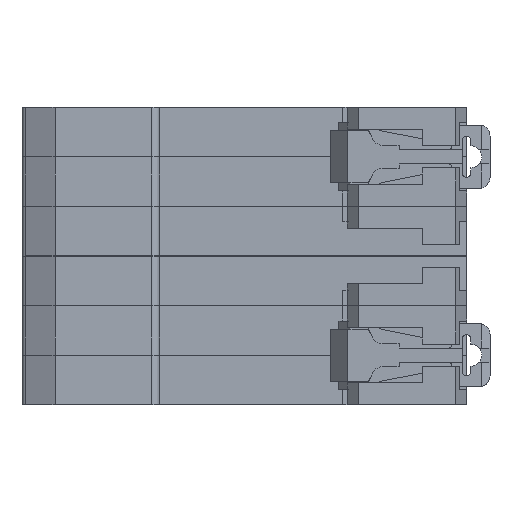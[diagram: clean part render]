
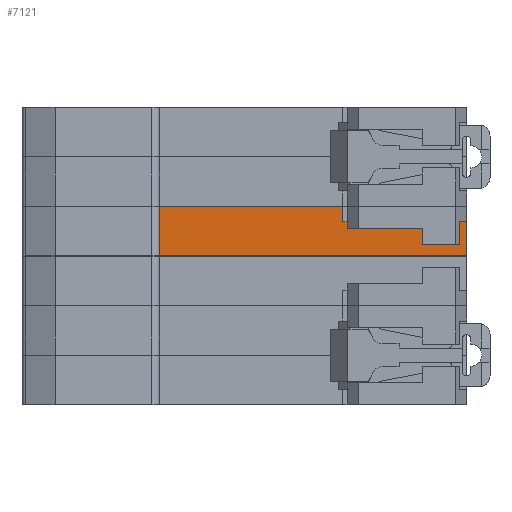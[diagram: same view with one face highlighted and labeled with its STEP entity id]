
A CAD part, front view. The second image highlights one B-rep face of the part: STEP entity #7121.
In plain terms, the highlighted planar face has unit normal (0, -1, 0).
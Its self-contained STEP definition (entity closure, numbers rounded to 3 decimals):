
#1115 = CARTESIAN_POINT ( 'NONE',  ( -22.55, 0., 1.7 ) ) ;
#1925 = LINE ( 'NONE', #25377, #28741 ) ;
#2718 = VERTEX_POINT ( 'NONE', #18014 ) ;
#3204 = ORIENTED_EDGE ( 'NONE', *, *, #23150, .T. ) ;
#3353 = VECTOR ( 'NONE', #11024, 1000. ) ;
#5272 = DIRECTION ( 'NONE',  ( 0., 1., 0. ) ) ;
#5870 = VERTEX_POINT ( 'NONE', #18369 ) ;
#7121 = ADVANCED_FACE ( 'NONE', ( #15797 ), #27165, .F. ) ;
#7214 = LINE ( 'NONE', #18865, #3353 ) ;
#7413 = CARTESIAN_POINT ( 'NONE',  ( 13.15, 0., 0. ) ) ;
#10158 = DIRECTION ( 'NONE',  ( -1., 0., 0. ) ) ;
#10385 = ORIENTED_EDGE ( 'NONE', *, *, #29255, .F. ) ;
#10396 = EDGE_CURVE ( 'NONE', #2718, #5870, #28438, .T. ) ;
#10707 = CARTESIAN_POINT ( 'NONE',  ( -45.05, 0., 9. ) ) ;
#11024 = DIRECTION ( 'NONE',  ( 0., 0., -1. ) ) ;
#11380 = ORIENTED_EDGE ( 'NONE', *, *, #26299, .T. ) ;
#11622 = DIRECTION ( 'NONE',  ( 1., 0., 0. ) ) ;
#12348 = CARTESIAN_POINT ( 'NONE',  ( -22.55, 0., 1.7 ) ) ;
#14048 = VECTOR ( 'NONE', #15594, 1000. ) ;
#14970 = EDGE_LOOP ( 'NONE', ( #18957, #27624, #11380, #28647, #10385, #3204 ) ) ;
#15594 = DIRECTION ( 'NONE',  ( -1., 0., 0. ) ) ;
#15797 = FACE_OUTER_BOUND ( 'NONE', #14970, .T. ) ;
#15861 = VECTOR ( 'NONE', #21684, 1000. ) ;
#16218 = EDGE_CURVE ( 'NONE', #19196, #30609, #7214, .T. ) ;
#16631 = VERTEX_POINT ( 'NONE', #19407 ) ;
#16798 = VECTOR ( 'NONE', #11622, 1000. ) ;
#18014 = CARTESIAN_POINT ( 'NONE',  ( -22.55, 0., 2.8 ) ) ;
#18037 = VERTEX_POINT ( 'NONE', #10707 ) ;
#18369 = CARTESIAN_POINT ( 'NONE',  ( -45.05, 0., 2.8 ) ) ;
#18865 = CARTESIAN_POINT ( 'NONE',  ( 13.15, 0., 1.7 ) ) ;
#18957 = ORIENTED_EDGE ( 'NONE', *, *, #10396, .F. ) ;
#19196 = VERTEX_POINT ( 'NONE', #24766 ) ;
#19407 = CARTESIAN_POINT ( 'NONE',  ( -22.55, 0., 0. ) ) ;
#21306 = CARTESIAN_POINT ( 'NONE',  ( -22.55, 0., 0. ) ) ;
#21684 = DIRECTION ( 'NONE',  ( 1., 0., 0. ) ) ;
#21870 = EDGE_CURVE ( 'NONE', #2718, #16631, #27272, .T. ) ;
#23150 = EDGE_CURVE ( 'NONE', #18037, #5870, #1925, .T. ) ;
#23795 = DIRECTION ( 'NONE',  ( 0., 0., -1. ) ) ;
#24424 = CARTESIAN_POINT ( 'NONE',  ( -22.55, 0., 9. ) ) ;
#24766 = CARTESIAN_POINT ( 'NONE',  ( 13.15, 0., 9. ) ) ;
#25377 = CARTESIAN_POINT ( 'NONE',  ( -45.05, 0., 1.7 ) ) ;
#26299 = EDGE_CURVE ( 'NONE', #16631, #30609, #31169, .T. ) ;
#27165 = PLANE ( 'NONE',  #30175 ) ;
#27272 = LINE ( 'NONE', #1115, #30349 ) ;
#27624 = ORIENTED_EDGE ( 'NONE', *, *, #21870, .T. ) ;
#27863 = DIRECTION ( 'NONE',  ( 0., 0., -1. ) ) ;
#27995 = CARTESIAN_POINT ( 'NONE',  ( -17.083, 0., 2.8 ) ) ;
#28438 = LINE ( 'NONE', #27995, #14048 ) ;
#28647 = ORIENTED_EDGE ( 'NONE', *, *, #16218, .F. ) ;
#28741 = VECTOR ( 'NONE', #27863, 1000. ) ;
#29255 = EDGE_CURVE ( 'NONE', #18037, #19196, #30634, .T. ) ;
#30175 = AXIS2_PLACEMENT_3D ( 'NONE', #12348, #5272, #10158 ) ;
#30349 = VECTOR ( 'NONE', #23795, 1000. ) ;
#30609 = VERTEX_POINT ( 'NONE', #7413 ) ;
#30634 = LINE ( 'NONE', #24424, #15861 ) ;
#31169 = LINE ( 'NONE', #21306, #16798 ) ;
